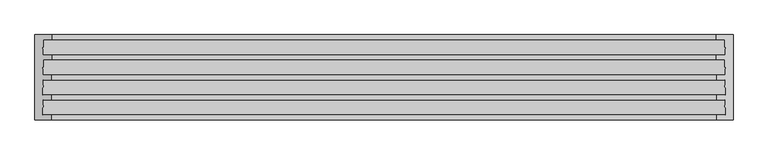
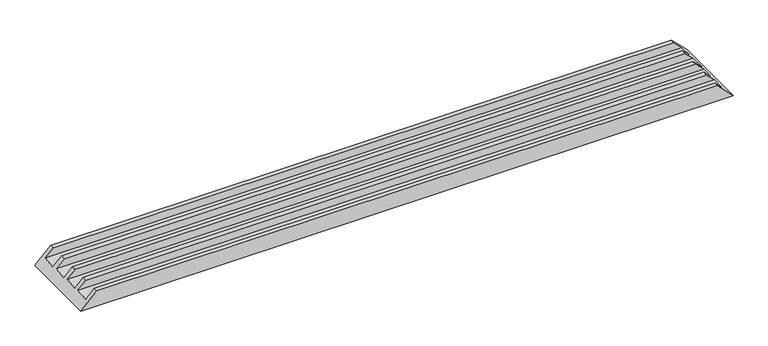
"""IFC4 building model written with IfcOpenShell, lengths in millimetres: proxy geometry, Weiku - Montante - Caixilho quíntuplo 02.2.01.003-003 refilado : Weiku - Montante - Caixilho quíntuplo 02.2.01.003-003 refilado."""

import ifcopenshell
import ifcopenshell.guid

model = None  # the IFC model being written
_history = None  # IfcOwnerHistory: only IFC2X3 demands one
_inside = {}  # id of a spatial element -> (the spatial element, [elements in it])
_under = {}  # id of a project, library or spatial element -> (it, [spatial elements below it])
_declared = {}  # id of a project -> (the project, [libraries it declares])
_typed = {}  # id of a type object -> (the type object, [elements of that type])
_made_of = {}  # id of a material, layer set ... -> (it, [elements and type objects made of it])


def new_model(schema):
    """Start an empty IFC model of exactly this schema.

    Asked for "IFC4X3", IfcOpenShell would pick the latest addendum, in which some entities
    have other attributes; the version numbers below select the first issue.
    IFC2X3 requires an IfcOwnerHistory on every rooted entity: one is made here for all.
    """
    global model, _history
    if schema == "IFC4X3":
        model = ifcopenshell.file(schema_version=(4, 3, 0, 0))
    else:
        model = ifcopenshell.file(schema=schema)
    _inside.clear()
    _under.clear()
    _declared.clear()
    _typed.clear()
    _made_of.clear()
    _history = None
    if model.schema == "IFC2X3":
        org = make("IfcOrganization", Name="unknown")
        user = make(
            "IfcPersonAndOrganization",
            ThePerson=make("IfcPerson", FamilyName="unknown"),
            TheOrganization=org,
        )
        app = make(
            "IfcApplication",
            ApplicationDeveloper=org,
            Version="unknown",
            ApplicationFullName="unknown",
            ApplicationIdentifier="unknown",
        )
        _history = make(
            "IfcOwnerHistory",
            OwningUser=user,
            OwningApplication=app,
            ChangeAction="ADDED",
            CreationDate=0,
        )
    return model


def make(cls, **values):
    """One entity of the class cls with the attributes given. An attribute that is None is left unset."""
    return model.create_entity(
        cls, **{name: value for name, value in values.items() if value is not None}
    )


def rooted(cls, **values):
    """An entity with a GlobalId (a new one), such as an element, a storey or a relation."""
    return make(cls, GlobalId=ifcopenshell.guid.new(), OwnerHistory=_history, **values)


def si_unit(unit_type, name, prefix=None):
    """IfcSIUnit, for example si_unit("LENGTHUNIT", "METRE", prefix="MILLI")."""
    return make("IfcSIUnit", UnitType=unit_type, Prefix=prefix, Name=name)


def assignment(units):
    """IfcUnitAssignment: the units of a project."""
    return None if units is None else make("IfcUnitAssignment", Units=units)


def point(xyz):
    """IfcCartesianPoint."""
    return None if xyz is None else make("IfcCartesianPoint", Coordinates=xyz)


def direction(xyz):
    """IfcDirection."""
    return None if xyz is None else make("IfcDirection", DirectionRatios=xyz)


def frame(location, z_axis=None, x_axis=None):
    """IfcAxis2Placement3D, a coordinate frame: its origin and axes. An axis left out is left unset."""
    return make(
        "IfcAxis2Placement3D",
        Location=point(location),
        Axis=direction(z_axis),
        RefDirection=direction(x_axis),
    )


def origin():
    """The frame at (0, 0, 0) with its axes left unset."""
    return frame((0.0, 0.0, 0.0))


def place(relative_to, where):
    """IfcLocalPlacement: puts the frame where relative to a parent placement (None: the world)."""
    return make(
        "IfcLocalPlacement", PlacementRelTo=relative_to, RelativePlacement=where
    )


def context(
    kind, dimensions, precision=None, world=None, true_north=None, identifier=None
):
    """IfcGeometricRepresentationContext, for example the 3D "Model" context."""
    return make(
        "IfcGeometricRepresentationContext",
        ContextIdentifier=identifier,
        ContextType=kind,
        CoordinateSpaceDimension=dimensions,
        Precision=precision,
        WorldCoordinateSystem=world,
        TrueNorth=true_north,
    )


def project(units=None, contexts=None):
    """IfcProject with its units and contexts."""
    return rooted(
        "IfcProject",
        Name="project",
        RepresentationContexts=contexts,
        UnitsInContext=assignment(units),
    )


def spatial(cls, under=None, at=None, **own):
    """A site, building, storey or space (cls), placed at a placement, below another one or the project."""
    s = rooted(cls, ObjectPlacement=at, **own)
    if under is not None:
        _under.setdefault(under.id(), (under, []))[1].append(s)
    return s


def faces_of(points, faces, orient=None, outer=None):
    """IfcFace entities. A face is a list of loops; a loop is a list of indices into points, from 0.

    orient and outer hold one flag for each loop. By default every Orientation is true, the
    first loop of a face is its IfcFaceOuterBound and the others are IfcFaceBound.
    """
    made = []
    for i, loops in enumerate(faces):
        bounds = []
        for j, loop in enumerate(loops):
            is_outer = j == 0 if outer is None else outer[i][j]
            bounds.append(
                make(
                    "IfcFaceOuterBound" if is_outer else "IfcFaceBound",
                    Bound=make("IfcPolyLoop", Polygon=[points[k] for k in loop]),
                    Orientation=True if orient is None else orient[i][j],
                )
            )
        made.append(make("IfcFace", Bounds=bounds))
    return made


def faceted_brep(points, faces, orient=None, outer=None, voids=None):
    """IfcFacetedBrep: a solid bounded by flat faces; with voids (closed shells), ...WithVoids."""
    shared = [point(p) for p in points]
    hull = make("IfcClosedShell", CfsFaces=faces_of(shared, faces, orient, outer))
    if voids is None:
        return make("IfcFacetedBrep", Outer=hull)
    return make(
        "IfcFacetedBrepWithVoids",
        Outer=hull,
        Voids=[
            make(cls, CfsFaces=faces_of(shared, fs, o, b)) for cls, fs, o, b in voids
        ],
    )


def shape(context_of_items, identifier, shape_type, items):
    """IfcShapeRepresentation: the items that make up one representation, for example the "Body"."""
    return make(
        "IfcShapeRepresentation",
        ContextOfItems=context_of_items,
        RepresentationIdentifier=identifier,
        RepresentationType=shape_type,
        Items=items,
    )


def source(mapping_origin, context_of_items, identifier, shape_type, items):
    """IfcRepresentationMap: a shape defined once, which mapped items show again and again."""
    return make(
        "IfcRepresentationMap",
        MappingOrigin=mapping_origin,
        MappedRepresentation=shape(context_of_items, identifier, shape_type, items),
    )


def transform(
    local_origin,
    x_axis=None,
    y_axis=None,
    z_axis=None,
    scale=None,
    scale2=None,
    scale3=None,
    uniform=True,
):
    """IfcCartesianTransformationOperator3D, or its non-uniform kind. x_axis, y_axis, z_axis: its Axis1, 2, 3."""
    if uniform:
        return make(
            "IfcCartesianTransformationOperator3D",
            Axis1=direction(x_axis),
            Axis2=direction(y_axis),
            LocalOrigin=point(local_origin),
            Scale=scale,
            Axis3=direction(z_axis),
        )
    return make(
        "IfcCartesianTransformationOperator3DnonUniform",
        Axis1=direction(x_axis),
        Axis2=direction(y_axis),
        LocalOrigin=point(local_origin),
        Scale=scale,
        Axis3=direction(z_axis),
        Scale2=scale2,
        Scale3=scale3,
    )


def mapped(mapping_source, mapping_target):
    """IfcMappedItem: shows the shape of a source again, moved by a transform."""
    return make(
        "IfcMappedItem", MappingSource=mapping_source, MappingTarget=mapping_target
    )


def made_of(thing, what):
    """Note that an element or type object is made of a material, layer set ...; save() writes the relation."""
    if what is not None:
        _made_of.setdefault(what.id(), (what, []))[1].append(thing)
    return thing


def element(
    cls,
    number,
    at=None,
    inside=None,
    cuts=None,
    type_object=None,
    material=None,
    context=None,
    identifier="Body",
    shape_type=None,
    held_by="IfcProductDefinitionShape",
    body=None,
    shapes=None,
    **own,
):
    """One element of the class cls, such as IfcWall. Its Tag is "e" and its number.

    at: its placement. inside: the storey or other place that contains it. cuts: it is an
    opening in that element (IfcRelVoidsElement). A single representation is given by context,
    identifier, shape_type and body (its items); several are given by shapes. held_by: the class
    of the entity that holds the representations. save() writes the other relations.
    """
    e = rooted(cls, Tag="e%d" % number, ObjectPlacement=at, **own)
    if body is not None:
        shapes = [shape(context, identifier, shape_type, body)]
    if shapes is not None:
        e.Representation = make(held_by, Representations=shapes)
    if inside is not None:
        _inside.setdefault(inside.id(), (inside, []))[1].append(e)
    if cuts is not None:
        rooted(
            "IfcRelVoidsElement", RelatingBuildingElement=cuts, RelatedOpeningElement=e
        )
    if type_object is not None:
        _typed.setdefault(type_object.id(), (type_object, []))[1].append(e)
    return made_of(e, material)


def aggregate(whole, parts):
    """IfcRelAggregates: a whole, such as a stair, and the parts it consists of."""
    return rooted("IfcRelAggregates", RelatingObject=whole, RelatedObjects=parts)


def save(model, path):
    """Write the relations noted so far, then the file.

    IfcRelAggregates (storeys below a building ...), IfcRelContainedInSpatialStructure (elements
    in a storey), IfcRelDefinesByType, IfcRelAssociatesMaterial and IfcRelDeclares: one each for
    every whole, place, type object, material and project.
    """
    for whole, parts in _under.values():
        aggregate(whole, parts)
    for where, things in _inside.values():
        rooted(
            "IfcRelContainedInSpatialStructure",
            RelatedElements=things,
            RelatingStructure=where,
        )
    for kind, things in _typed.values():
        rooted("IfcRelDefinesByType", RelatedObjects=things, RelatingType=kind)
    for what, things in _made_of.values():
        rooted("IfcRelAssociatesMaterial", RelatedObjects=things, RelatingMaterial=what)
    for by, libraries in _declared.values():
        rooted("IfcRelDeclares", RelatingContext=by, RelatedDefinitions=libraries)
    model.write(path)


def generic_models_1955b095(model_context):
    return source(origin(), model_context, "Body", "Brep", [
        faceted_brep([(-1049.5, -139.0, 26.0), (1049.5, -139.0, 26.0), (1023.5, -139.0, 52.0), (-1023.5, -139.0, 52.0), (-1051.7229744, -186.0, 23.7770256), (1051.7229744, -186.0, 23.7770256), (-1023.5, -186.0, 52.0), (1023.5, -186.0, 52.0), (-1023.5, -201.0, 52.0), (1023.5, -201.0, 52.0), (-1075.5, -263.0, 0.0), (-1075.5, 0.0, 0.0), (1075.5, 0.0, 0.0), (1075.5, -263.0, 0.0), (1023.5, -124.0, 52.0), (-1023.5, -124.0, 52.0), (-1049.5, -201.0, 26.0), (1049.5, -201.0, 26.0), (-1051.7229744, -248.0, 23.7770256), (1051.7229744, -248.0, 23.7770256), (-1023.5, -248.0, 52.0), (1023.5, -248.0, 52.0), (-1023.5, -263.0, 52.0), (1023.5, -263.0, 52.0), (-1023.5, 0.0, 52.0), (1023.5, 0.0, 52.0), (1051.7229744, -124.0, 23.7770256), (-1051.7229744, -124.0, 23.7770256), (-1049.5, -77.0, 26.0), (-1023.5, -77.0, 52.0), (-1023.5, -62.0, 52.0), (-1051.7229744, -62.0, 23.7770256), (-1049.5, -15.0, 26.0), (-1023.5, -15.0, 52.0), (1023.5, -15.0, 52.0), (1049.5, -15.0, 26.0), (1051.7229744, -62.0, 23.7770256), (1023.5, -62.0, 52.0), (1023.5, -77.0, 52.0), (1049.5, -77.0, 26.0)], [[[0, 1, 2, 3]], [[4, 5, 1, 0]], [[6, 7, 5, 4]], [[8, 9, 7, 6]], [[10, 11, 12, 13]], [[3, 2, 14, 15]], [[16, 17, 9, 8]], [[18, 19, 17, 16]], [[20, 21, 19, 18]], [[22, 23, 21, 20]], [[13, 23, 22, 10]], [[11, 24, 25, 12]], [[15, 14, 26, 27]], [[3, 15, 27, 28, 29, 30, 31, 32, 33, 24, 11, 10, 22, 20, 18, 16, 8, 6, 4, 0]], [[1, 5, 7, 9, 17, 19, 21, 23, 13, 12, 25, 34, 35, 36, 37, 38, 39, 26, 14, 2]], [[33, 34, 25, 24]], [[32, 35, 34, 33]], [[31, 36, 35, 32]], [[30, 37, 36, 31]], [[29, 38, 37, 30]], [[28, 39, 38, 29]], [[27, 26, 39, 28]]]),
    ])


if __name__ == "__main__":
    model = new_model("IFC4")
    model_context = context("Model", 3, world=origin())
    ifc_project = project(units=[si_unit("LENGTHUNIT", "METRE", prefix="MILLI")], contexts=[model_context])
    site = spatial("IfcSite", under=ifc_project)
    building = spatial("IfcBuilding", under=site)
    placement = place(None, origin())
    generic_models_shape = generic_models_1955b095(model_context)
    element("IfcBuildingElementProxy", 1, Name="Weiku - Montante - Caixilho quíntuplo 02.2.01.003-003 refilado : Weiku - Montante - Caixilho quíntuplo 02.2.01.003-003 refilado", ObjectType="Weiku - Montante - Caixilho quíntuplo 02.2.01.003-003 refilado : Weiku - Montante - Caixilho quíntuplo 02.2.01.003-003 refilado", at=placement, inside=building, context=model_context, shape_type="MappedRepresentation", body=[
        mapped(generic_models_shape, transform((0.0, 0.0, 0.0), x_axis=(1.0, 0.0, 0.0), y_axis=(0.0, 1.0, 0.0), z_axis=(0.0, 0.0, 1.0))),
    ])
    save(model, "model.ifc")
